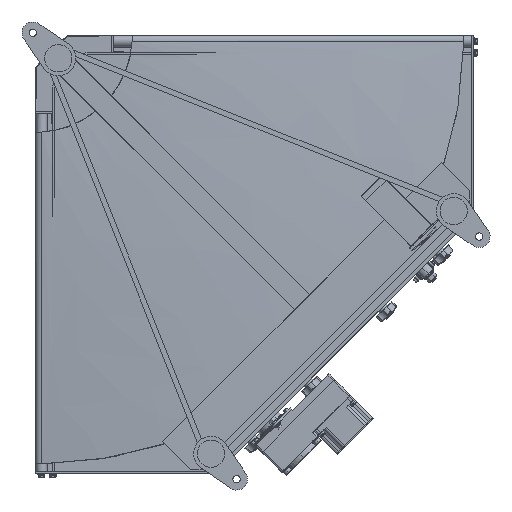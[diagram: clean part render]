
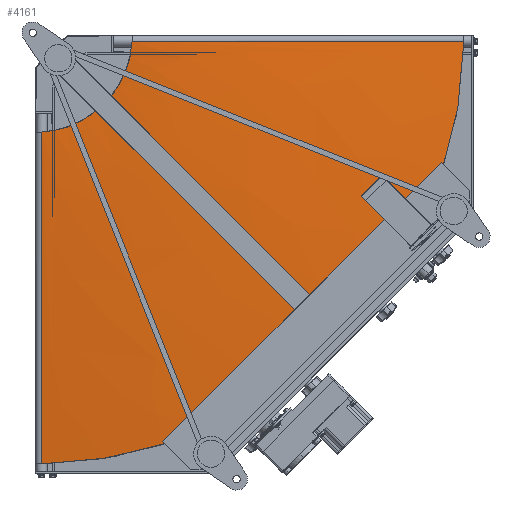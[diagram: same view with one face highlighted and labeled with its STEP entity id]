
A CAD part, front view. The second image highlights one B-rep face of the part: STEP entity #4161.
In plain terms, the highlighted free-form (B-spline) face has degree [3, 3] with [6, 4] control points.
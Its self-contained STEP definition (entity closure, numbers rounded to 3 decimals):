
#4161=ADVANCED_FACE('',(#17912),#17911,.F.);
#17911=( BOUNDED_SURFACE() B_SPLINE_SURFACE( 3,3,((#29056,#29057,#29058,#29059),(#29060,#29061,#29062,#29063),(#29064,#29065,#29066,#29067),(#29068,#29069,#29070,#29071),(#29072,#29073,#29074,#29075),(#29076,#29077,#29078,#29079)), .UNSPECIFIED.,.F.,.F.,.F.) B_SPLINE_SURFACE_WITH_KNOTS((4,2,4),(4,4),(-0.009,0.5,1.009),(-0.066,1.066), .UNSPECIFIED. ) GEOMETRIC_REPRESENTATION_ITEM() RATIONAL_B_SPLINE_SURFACE(((1.,1.,1.,1.),(1.,1.,1.,1.),(1.,1.,1.,1.),(1.,1.,1.,1.),(1.,1.,1.,1.),(1.,1.,1.,1.))) REPRESENTATION_ITEM('') SURFACE() );
#17912=FACE_OUTER_BOUND('',#29080,.T.);
#29056=CARTESIAN_POINT('',(787.165,-18.178,1.063));
#29057=CARTESIAN_POINT('',(568.459,-18.716,-2.057));
#29058=CARTESIAN_POINT('',(349.753,-19.255,-5.176));
#29059=CARTESIAN_POINT('',(131.048,-19.794,-8.296));
#29060=CARTESIAN_POINT('',(786.741,-46.965,-206.657));
#29061=CARTESIAN_POINT('',(567.5,-37.317,-151.205));
#29062=CARTESIAN_POINT('',(348.26,-27.669,-95.753));
#29063=CARTESIAN_POINT('',(129.02,-18.021,-40.301));
#29064=CARTESIAN_POINT('',(702.983,-63.137,-406.895));
#29065=CARTESIAN_POINT('',(507.139,-47.766,-294.713));
#29066=CARTESIAN_POINT('',(311.296,-32.395,-182.531));
#29067=CARTESIAN_POINT('',(115.453,-17.024,-70.349));
#29068=CARTESIAN_POINT('',(406.895,-63.137,-702.983));
#29069=CARTESIAN_POINT('',(294.713,-47.766,-507.139));
#29070=CARTESIAN_POINT('',(182.531,-32.395,-311.296));
#29071=CARTESIAN_POINT('',(70.349,-17.024,-115.453));
#29072=CARTESIAN_POINT('',(206.657,-46.965,-786.741));
#29073=CARTESIAN_POINT('',(151.205,-37.317,-567.5));
#29074=CARTESIAN_POINT('',(95.753,-27.669,-348.26));
#29075=CARTESIAN_POINT('',(40.301,-18.021,-129.02));
#29076=CARTESIAN_POINT('',(-1.063,-18.178,-787.165));
#29077=CARTESIAN_POINT('',(2.057,-18.716,-568.459));
#29078=CARTESIAN_POINT('',(5.176,-19.255,-349.753));
#29079=CARTESIAN_POINT('',(8.296,-19.794,-131.048));
#29080=EDGE_LOOP('',(#36435,#36436,#36437,#36438));
#36435=ORIENTED_EDGE('',*,*,#40107,.F.);
#36436=ORIENTED_EDGE('',*,*,#40108,.T.);
#36437=ORIENTED_EDGE('',*,*,#40109,.T.);
#36438=ORIENTED_EDGE('',*,*,#40110,.F.);
#40107=EDGE_CURVE('',#60786,#60787,#60788,.T.);
#40108=EDGE_CURVE('',#60786,#60794,#60795,.T.);
#40109=EDGE_CURVE('',#60794,#60801,#60802,.T.);
#40110=EDGE_CURVE('',#60787,#60801,#60808,.T.);
#60786=VERTEX_POINT('',#78317);
#60787=VERTEX_POINT('',#78318);
#60788=(BOUNDED_CURVE() B_SPLINE_CURVE(3,(#78319,#78320,#78321,#78322,#78323,#78324,#78325,#78326,#78327,#78328,#78329,#78330,#78331,#78332,#78333,#78334,#78335,#78336,#78337,#78338,#78339,#78340,#78341,#78342,#78343,#78344,#78345,#78346,#78347,#78348,#78349,#78350,#78351,#78352),.UNSPECIFIED.,.F.,.F.) B_SPLINE_CURVE_WITH_KNOTS((4,2,2,2,2,2,2,2,2,2,2,2,2,2,2,2,4),(0.,0.063,0.125,0.188,0.25,0.313,0.375,0.438,0.5,0.563,0.625,0.688,0.75,0.813,0.875,0.938,1.),.UNSPECIFIED.) CURVE() GEOMETRIC_REPRESENTATION_ITEM() RATIONAL_B_SPLINE_CURVE((1.,1.,1.,1.,1.,1.,1.,1.,1.,1.,1.,1.,1.,1.,1.,1.,1.,1.,1.,1.,1.,1.,1.,1.,1.,1.,1.,1.,1.,1.,1.,1.,1.,1.)) REPRESENTATION_ITEM('') );
#60794=VERTEX_POINT('',#78353);
#60795=LINE('',#78354,#78355);
#60801=VERTEX_POINT('',#78357);
#60802=(BOUNDED_CURVE() B_SPLINE_CURVE(3,(#78358,#78359,#78360,#78361,#78362,#78363,#78364,#78365,#78366,#78367,#78368),.UNSPECIFIED.,.F.,.F.) B_SPLINE_CURVE_WITH_KNOTS((4,1,1,1,1,1,1,1,4),(0.,0.134,0.224,0.334,0.5,0.666,0.776,0.866,1.),.UNSPECIFIED.) CURVE() GEOMETRIC_REPRESENTATION_ITEM() RATIONAL_B_SPLINE_CURVE((1.,1.,1.,1.,1.,1.,1.,1.,1.,1.,1.)) REPRESENTATION_ITEM('') );
#60808=LINE('',#78369,#78370);
#78317=CARTESIAN_POINT('',(748.933,-19.7,-10.));
#78318=CARTESIAN_POINT('',(10.,-19.7,-748.933));
#78319=CARTESIAN_POINT('',(748.933,-19.7,-10.));
#78320=CARTESIAN_POINT('',(748.611,-22.929,-33.954));
#78321=CARTESIAN_POINT('',(747.142,-25.998,-57.904));
#78322=CARTESIAN_POINT('',(741.907,-31.791,-105.597));
#78323=CARTESIAN_POINT('',(738.138,-34.515,-129.344));
#78324=CARTESIAN_POINT('',(728.321,-39.592,-176.417));
#78325=CARTESIAN_POINT('',(722.276,-41.945,-199.742));
#78326=CARTESIAN_POINT('',(707.953,-46.256,-245.734));
#78327=CARTESIAN_POINT('',(699.672,-48.214,-268.399));
#78328=CARTESIAN_POINT('',(680.957,-51.715,-312.851));
#78329=CARTESIAN_POINT('',(670.523,-53.259,-334.636));
#78330=CARTESIAN_POINT('',(647.591,-55.916,-377.109));
#78331=CARTESIAN_POINT('',(635.093,-57.029,-397.796));
#78332=CARTESIAN_POINT('',(608.148,-58.815,-437.882));
#78333=CARTESIAN_POINT('',(593.698,-59.488,-457.281));
#78334=CARTESIAN_POINT('',(562.983,-60.385,-494.603));
#78335=CARTESIAN_POINT('',(546.719,-60.611,-512.527));
#78336=CARTESIAN_POINT('',(512.532,-60.611,-546.714));
#78337=CARTESIAN_POINT('',(494.608,-60.385,-562.978));
#78338=CARTESIAN_POINT('',(457.286,-59.488,-593.694));
#78339=CARTESIAN_POINT('',(437.888,-58.815,-608.144));
#78340=CARTESIAN_POINT('',(397.801,-57.029,-635.089));
#78341=CARTESIAN_POINT('',(377.114,-55.916,-647.587));
#78342=CARTESIAN_POINT('',(334.643,-53.259,-670.52));
#78343=CARTESIAN_POINT('',(312.859,-51.715,-680.954));
#78344=CARTESIAN_POINT('',(268.408,-48.214,-699.669));
#78345=CARTESIAN_POINT('',(245.742,-46.257,-707.95));
#78346=CARTESIAN_POINT('',(199.745,-41.945,-722.274));
#78347=CARTESIAN_POINT('',(176.417,-39.591,-728.32));
#78348=CARTESIAN_POINT('',(129.338,-34.514,-738.138));
#78349=CARTESIAN_POINT('',(105.59,-31.79,-741.909));
#78350=CARTESIAN_POINT('',(57.9,-25.998,-747.144));
#78351=CARTESIAN_POINT('',(33.954,-22.929,-748.612));
#78352=CARTESIAN_POINT('',(10.,-19.7,-748.933));
#78353=CARTESIAN_POINT('',(168.704,-19.7,-10.));
#78354=CARTESIAN_POINT('',(748.933,-19.7,-10.));
#78355=VECTOR('',#78356,580.229);
#78356=DIRECTION('',(-1.,0.,0.));
#78357=CARTESIAN_POINT('',(10.,-19.7,-168.704));
#78358=CARTESIAN_POINT('',(168.704,-19.7,-10.));
#78359=CARTESIAN_POINT('',(168.056,-19.696,-20.952));
#78360=CARTESIAN_POINT('',(165.188,-19.691,-39.108));
#78361=CARTESIAN_POINT('',(156.616,-19.685,-65.058));
#78362=CARTESIAN_POINT('',(143.203,-19.681,-91.898));
#78363=CARTESIAN_POINT('',(120.677,-19.678,-120.677));
#78364=CARTESIAN_POINT('',(91.898,-19.681,-143.203));
#78365=CARTESIAN_POINT('',(65.058,-19.685,-156.616));
#78366=CARTESIAN_POINT('',(39.108,-19.691,-165.188));
#78367=CARTESIAN_POINT('',(20.952,-19.696,-168.056));
#78368=CARTESIAN_POINT('',(10.,-19.7,-168.704));
#78369=CARTESIAN_POINT('',(10.,-19.7,-748.933));
#78370=VECTOR('',#78371,580.229);
#78371=DIRECTION('',(0.,0.,1.));
